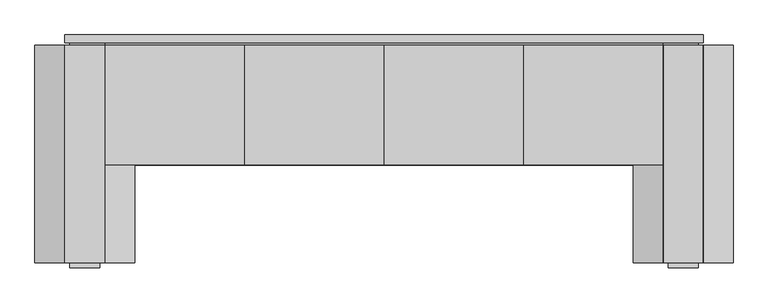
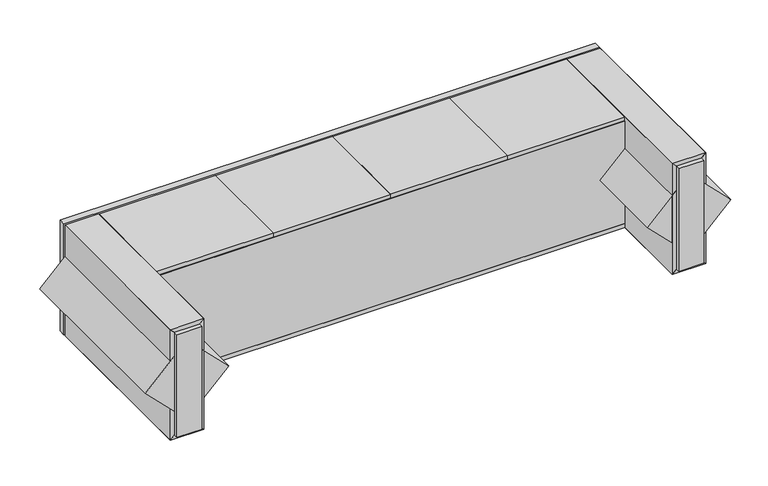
"""IFC4 building model written with IfcOpenShell, lengths in millimetres: proxy geometry, BASYS^CREDENZA 3_4 DOORS SQUARE LEG-PARTS SOLID."""

from ifc_helpers import new_model, si_unit, frame, origin, place, context, project, spatial, polyline, outline, extrude, source, transform, mapped, element, save


def generic_models_a6464a1e(model_context):
    return source(origin(), model_context, "Body", "SweptSolid", [
        extrude(outline(polyline([(152.4, -466.725), (152.4, -9.525), (2286.0, -9.525), (2286.0, -466.725), (152.4, -466.725)])), frame((0.0, 0.0, -533.4), z_axis=(0.0, 0.0, 1.0), x_axis=(1.0, 0.0, 0.0)), (0.0, 0.0, 1.0), 19.05),
        extrude(outline(polyline([(2286.0, -28.575), (152.4, -28.575), (152.4, 0.0), (2286.0, 0.0), (2286.0, -28.575)])), frame((0.0, 0.0, -514.35), z_axis=(0.0, 0.0, 1.0), x_axis=(1.0, 0.0, 0.0)), (0.0, 0.0, 1.0), 492.125),
        extrude(outline(polyline([(2266.95, -28.575), (2286.0, -28.575), (2286.0, -447.675), (2266.95, -447.675), (2266.95, -28.575)])), frame((0.0, 0.0, -514.35), z_axis=(0.0, 0.0, 1.0), x_axis=(1.0, 0.0, 0.0)), (0.0, 0.0, 1.0), 492.125),
        extrude(outline(polyline([(0.0, 0.0), (-76.2, 76.2), (0.0, 152.4), (0.0, 0.0)])), frame((0.0, -839.7875, 0.0), z_axis=(0.0, 1.0, 0.0), x_axis=(0.0, 0.0, 1.0)), (0.0, 0.0, 1.0), 830.2625),
        extrude(outline(polyline([(2286.0, -466.725), (152.4, -466.725), (152.4, -447.675), (2286.0, -447.675), (2286.0, -466.725)])), frame((0.0, 0.0, -514.35), z_axis=(0.0, 0.0, 1.0), x_axis=(1.0, 0.0, 0.0)), (0.0, 0.0, 1.0), 492.125),
        extrude(outline(polyline([(-533.4, 2286.0), (-266.7, 2552.7), (0.0, 2286.0), (-533.4, 2286.0)])), frame((0.0, -839.7875, 0.0), z_axis=(0.0, 1.0, 0.0), x_axis=(0.0, 0.0, 1.0)), (0.0, 0.0, 1.0), 830.2625),
        extrude(outline(polyline([(154.78125, -466.725), (154.78125, -9.525), (685.2046875, -9.525), (685.2046875, -466.725), (154.78125, -466.725)])), frame((0.0, 0.0, -19.05), z_axis=(0.0, 0.0, 1.0), x_axis=(1.0, 0.0, 0.0)), (0.0, 0.0, 1.0), 19.05),
        extrude(outline(polyline([(171.45, -447.675), (152.4, -447.675), (152.4, -28.575), (171.45, -28.575), (171.45, -447.675)])), frame((0.0, 0.0, -514.35), z_axis=(0.0, 0.0, 1.0), x_axis=(1.0, 0.0, 0.0)), (0.0, 0.0, 1.0), 492.125),
        extrude(outline(polyline([(2305.05, -858.8375), (2305.05, -820.7375), (2419.35, -820.7375), (2419.35, -858.8375), (2305.05, -858.8375)])), frame((0.0, 0.0, -514.35), z_axis=(0.0, 0.0, 1.0), x_axis=(1.0, 0.0, 0.0)), (0.0, 0.0, 1.0), 495.3),
        extrude(outline(polyline([(0.0, 152.4), (-266.7, -114.3), (-533.4, 152.4), (0.0, 152.4)])), frame((0.0, -839.7875, 0.0), z_axis=(0.0, 1.0, 0.0), x_axis=(0.0, 0.0, 1.0)), (0.0, 0.0, 1.0), 830.2625),
        extrude(outline(polyline([(687.5859375, -466.725), (687.5859375, -9.525), (1218.009375, -9.525), (1218.009375, -466.725), (687.5859375, -466.725)])), frame((0.0, 0.0, -19.05), z_axis=(0.0, 0.0, 1.0), x_axis=(1.0, 0.0, 0.0)), (0.0, 0.0, 1.0), 19.05),
        extrude(outline(polyline([(133.35, -820.7375), (133.35, -858.8375), (19.05, -858.8375), (19.05, -820.7375), (133.35, -820.7375)])), frame((0.0, 0.0, -514.35), z_axis=(0.0, 0.0, 1.0), x_axis=(1.0, 0.0, 0.0)), (0.0, 0.0, 1.0), 495.3),
        extrude(outline(polyline([(-533.4, 152.4), (-457.2, 76.2), (-533.4, 0.0), (-533.4, 152.4)])), frame((0.0, -839.7875, 0.0), z_axis=(0.0, 1.0, 0.0), x_axis=(0.0, 0.0, 1.0)), (0.0, 0.0, 1.0), 830.2625),
        extrude(outline(polyline([(1220.390625, -466.725), (1220.390625, -9.525), (1750.8140625, -9.525), (1750.8140625, -466.725), (1220.390625, -466.725)])), frame((0.0, 0.0, -19.05), z_axis=(0.0, 0.0, 1.0), x_axis=(1.0, 0.0, 0.0)), (0.0, 0.0, 1.0), 19.05),
        extrude(outline(polyline([(-266.7, 266.7), (0.0, 0.0), (-533.4, 0.0), (-266.7, 266.7)])), frame((0.0, -839.7875, 0.0), z_axis=(0.0, 1.0, 0.0), x_axis=(0.0, 0.0, 1.0)), (0.0, 0.0, 1.0), 830.2625),
        extrude(outline(polyline([(2286.0, 0.0), (2419.35, 0.0), (2419.35, -28.575), (2286.0, -28.575), (2286.0, 0.0)])), frame((0.0, 0.0, -514.35), z_axis=(0.0, 0.0, 1.0), x_axis=(1.0, 0.0, 0.0)), (0.0, 0.0, 1.0), 495.3),
        extrude(outline(polyline([(19.05, 0.0), (152.4, 0.0), (152.4, -28.575), (19.05, -28.575), (19.05, 0.0)])), frame((0.0, 0.0, -514.35), z_axis=(0.0, 0.0, 1.0), x_axis=(1.0, 0.0, 0.0)), (0.0, 0.0, 1.0), 495.3),
        extrude(outline(polyline([(2438.4, 0.0), (0.0, 0.0), (0.0, 30.1625), (2438.4, 30.1625), (2438.4, 0.0)])), frame((0.0, 0.0, -533.4), z_axis=(0.0, 0.0, 1.0), x_axis=(1.0, 0.0, 0.0)), (0.0, 0.0, 1.0), 533.4),
        extrude(outline(polyline([(-533.4, 2438.4), (-457.2, 2362.2), (-533.4, 2286.0), (-533.4, 2438.4)])), frame((0.0, -839.7875, 0.0), z_axis=(0.0, 1.0, 0.0), x_axis=(0.0, 0.0, 1.0)), (0.0, 0.0, 1.0), 830.2625),
        extrude(outline(polyline([(0.0, 2438.4), (-266.7, 2171.7), (-533.4, 2438.4), (0.0, 2438.4)])), frame((0.0, -839.7875, 0.0), z_axis=(0.0, 1.0, 0.0), x_axis=(0.0, 0.0, 1.0)), (0.0, 0.0, 1.0), 830.2625),
        extrude(outline(polyline([(1753.1953125, -466.725), (1753.1953125, -9.525), (2283.61875, -9.525), (2283.61875, -466.725), (1753.1953125, -466.725)])), frame((0.0, 0.0, -19.05), z_axis=(0.0, 0.0, 1.0), x_axis=(1.0, 0.0, 0.0)), (0.0, 0.0, 1.0), 19.05),
        extrude(outline(polyline([(0.0, 2286.0), (-76.2, 2362.2), (0.0, 2438.4), (0.0, 2286.0)])), frame((0.0, -839.7875, 0.0), z_axis=(0.0, 1.0, 0.0), x_axis=(0.0, 0.0, 1.0)), (0.0, 0.0, 1.0), 830.2625),
    ])


if __name__ == "__main__":
    model = new_model("IFC4")
    model_context = context("Model", 3, world=origin())
    ifc_project = project(units=[si_unit("LENGTHUNIT", "METRE", prefix="MILLI")], contexts=[model_context])
    site = spatial("IfcSite", under=ifc_project)
    building = spatial("IfcBuilding", under=site)
    placement = place(None, origin())
    generic_models_shape = generic_models_a6464a1e(model_context)
    element("IfcBuildingElementProxy", 1, Name="BASYS^CREDENZA 3_4 DOORS SQUARE LEG-PARTS SOLID", ObjectType="BASYS^CREDENZA 3_4 DOORS SQUARE LEG-PARTS SOLID", at=placement, inside=building, context=model_context, shape_type="MappedRepresentation", body=[
        mapped(generic_models_shape, transform((0.0, 0.0, 0.0), x_axis=(1.0, 0.0, 0.0), y_axis=(0.0, 1.0, 0.0), z_axis=(0.0, 0.0, 1.0))),
    ])
    save(model, "model.ifc")
